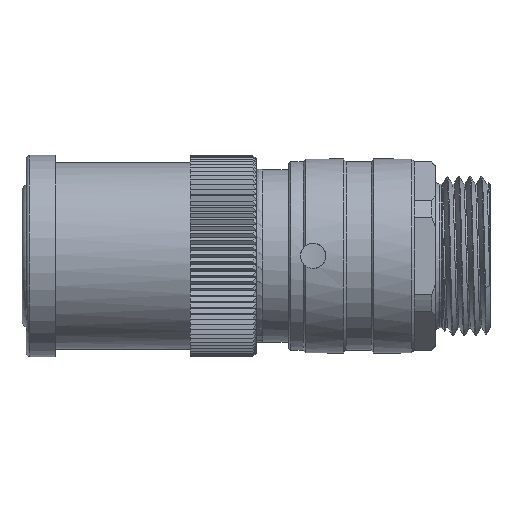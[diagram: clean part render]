
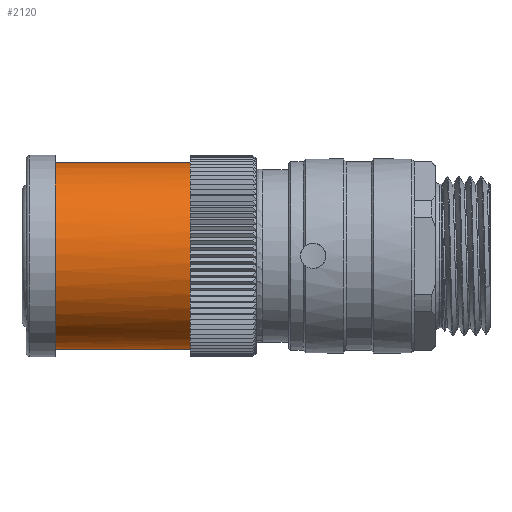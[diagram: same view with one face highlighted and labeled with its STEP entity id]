
A CAD part, top view. The second image highlights one B-rep face of the part: STEP entity #2120.
In plain terms, the highlighted cylindrical face has radius 13 mm (diameter 26 mm), a full revolution.
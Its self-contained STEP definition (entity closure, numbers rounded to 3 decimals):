
#107=B_SPLINE_CURVE_WITH_KNOTS('',3,(#13668,#13669,#13670,#13671,#13672,
#13673,#13674,#13675,#13676,#13677,#13678,#13679,#13680,#13681,#13682,#13683,
#13684,#13685,#13686,#13687,#13688,#13689),.UNSPECIFIED.,.F.,.F.,(4,2,2,
2,2,2,2,2,2,2,4),(0.,0.125,0.188,0.25,0.375,
0.5,0.625,0.75,0.813,
0.875,1.),.UNSPECIFIED.);
#112=B_SPLINE_CURVE_WITH_KNOTS('',3,(#13718,#13719,#13720,#13721),
 .UNSPECIFIED.,.F.,.F.,(4,4),(0.,1.),.UNSPECIFIED.);
#395=LINE('',#14048,#854);
#854=VECTOR('',#8048,1.);
#2120=ADVANCED_FACE('',(#2607,#2608),#2445,.T.);
#2445=CYLINDRICAL_SURFACE('',#7028,13.);
#2607=FACE_BOUND('',#2859,.T.);
#2608=FACE_BOUND('',#2860,.T.);
#2859=EDGE_LOOP('',(#3712,#3713));
#2860=EDGE_LOOP('',(#3714,#3715,#3716));
#3712=ORIENTED_EDGE('',*,*,#5873,.T.);
#3713=ORIENTED_EDGE('',*,*,#5870,.T.);
#3714=ORIENTED_EDGE('',*,*,#5878,.F.);
#3715=ORIENTED_EDGE('',*,*,#5879,.T.);
#3716=ORIENTED_EDGE('',*,*,#5876,.F.);
#5216=VERTEX_POINT('',#13690);
#5217=VERTEX_POINT('',#13691);
#5219=VERTEX_POINT('',#13714);
#5220=VERTEX_POINT('',#13717);
#5221=VERTEX_POINT('',#14047);
#5870=EDGE_CURVE('',#5216,#5217,#107,.T.);
#5873=EDGE_CURVE('',#5217,#5216,#6654,.T.);
#5876=EDGE_CURVE('',#5220,#5219,#112,.T.);
#5878=EDGE_CURVE('',#5221,#5220,#395,.T.);
#5879=EDGE_CURVE('',#5221,#5219,#6655,.T.);
#6654=CIRCLE('',#7024,13.);
#6655=CIRCLE('',#7027,13.);
#7024=AXIS2_PLACEMENT_3D('',#13707,#8043,#8044);
#7027=AXIS2_PLACEMENT_3D('',#14050,#8051,#8052);
#7028=AXIS2_PLACEMENT_3D('',#14051,#8053,#8054);
#8043=DIRECTION('',(1.,0.,0.));
#8044=DIRECTION('',(0.,1.,0.));
#8048=DIRECTION('',(-1.,0.,0.));
#8051=DIRECTION('',(-1.,0.,0.));
#8052=DIRECTION('',(0.,0.,-1.));
#8053=DIRECTION('',(-1.,0.,0.));
#8054=DIRECTION('',(0.,1.,0.));
#13668=CARTESIAN_POINT('',(-56.15,-7.012,-10.947));
#13669=CARTESIAN_POINT('',(-54.838,-8.364,-10.081));
#13670=CARTESIAN_POINT('',(-53.217,-9.324,-9.083));
#13671=CARTESIAN_POINT('',(-50.279,-9.986,-8.331));
#13672=CARTESIAN_POINT('',(-49.221,-10.054,-8.243));
#13673=CARTESIAN_POINT('',(-47.184,-9.852,-8.484));
#13674=CARTESIAN_POINT('',(-46.209,-9.587,-8.796));
#13675=CARTESIAN_POINT('',(-43.583,-8.456,-9.931));
#13676=CARTESIAN_POINT('',(-42.131,-7.25,-10.933));
#13677=CARTESIAN_POINT('',(-39.981,-4.087,-12.465));
#13678=CARTESIAN_POINT('',(-39.321,-2.107,-12.995));
#13679=CARTESIAN_POINT('',(-39.307,2.044,-13.005));
#13680=CARTESIAN_POINT('',(-39.965,4.05,-12.478));
#13681=CARTESIAN_POINT('',(-42.106,7.226,-10.95));
#13682=CARTESIAN_POINT('',(-43.541,8.432,-9.954));
#13683=CARTESIAN_POINT('',(-46.194,9.584,-8.801));
#13684=CARTESIAN_POINT('',(-47.164,9.847,-8.488));
#13685=CARTESIAN_POINT('',(-49.2,10.054,-8.243));
#13686=CARTESIAN_POINT('',(-50.258,9.988,-8.328));
#13687=CARTESIAN_POINT('',(-53.197,9.333,-9.073));
#13688=CARTESIAN_POINT('',(-54.837,8.365,-10.08));
#13689=CARTESIAN_POINT('',(-56.15,7.012,-10.947));
#13690=CARTESIAN_POINT('',(-56.15,-7.012,-10.947));
#13691=CARTESIAN_POINT('',(-56.15,7.012,-10.947));
#13707=CARTESIAN_POINT('',(-56.15,0.,0.));
#13714=CARTESIAN_POINT('',(-36.35,5.47,11.793));
#13717=CARTESIAN_POINT('',(-36.476,12.221,4.431));
#13718=CARTESIAN_POINT('',(-36.476,12.221,4.431));
#13719=CARTESIAN_POINT('',(-36.433,11.049,7.665));
#13720=CARTESIAN_POINT('',(-36.392,8.547,10.366));
#13721=CARTESIAN_POINT('',(-36.35,5.47,11.793));
#14047=CARTESIAN_POINT('',(-36.35,12.221,4.431));
#14048=CARTESIAN_POINT('',(-43.9,12.221,4.431));
#14050=CARTESIAN_POINT('',(-36.35,0.,0.));
#14051=CARTESIAN_POINT('',(-43.9,0.,0.));
